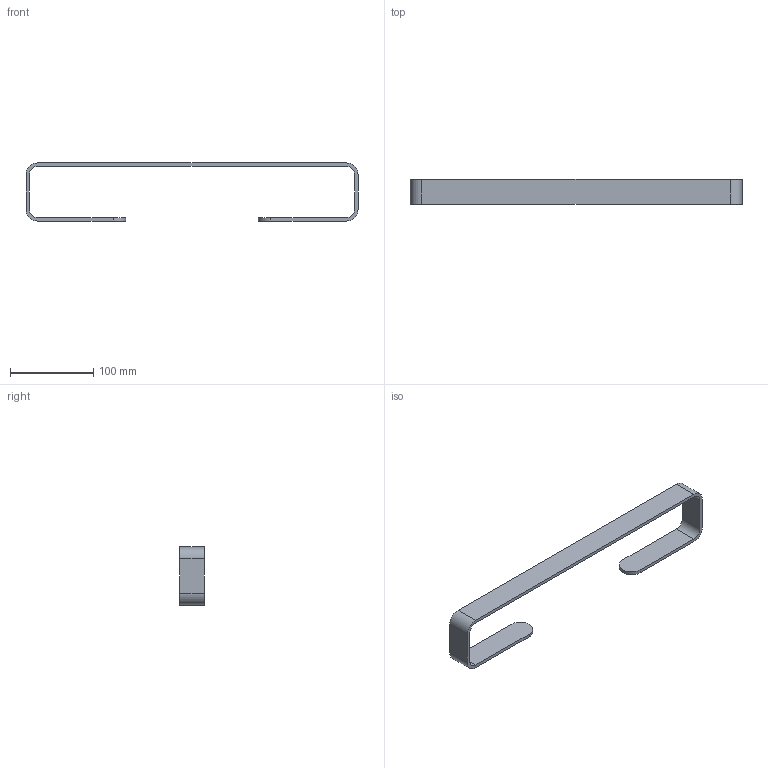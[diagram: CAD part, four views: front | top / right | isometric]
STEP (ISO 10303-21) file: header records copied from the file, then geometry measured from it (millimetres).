
FILE_DESCRIPTION((''),'2;1');
FILE_NAME('51-24-02','2023-05-29T11:57:17',('Administrator'),(''),'CREO PARAMETRIC BY PTC INC, 2019471','CREO PARAMETRIC BY PTC INC, 2019471','');
FILE_SCHEMA(('CONFIG_CONTROL_DESIGN'));
Length unit declared in the file: millimetre
Products named in the file (1): 51-24-02
Bounding box: 400 x 30 x 70 mm (x, y, z)
Volume: 88379.8 mm3; surface area: 50354.6 mm2
Topology: 1 solids, 1 shells, 28 faces, 72 edges, 48 vertices
Faces by surface type: plane 14, cylinder 14
Entity records: 902 total; most frequent: DIRECTION 156, CARTESIAN_POINT 148, ORIENTED_EDGE 144, EDGE_CURVE 72, AXIS2_PLACEMENT_3D 56, VERTEX_POINT 48, VECTOR 44, LINE 44
